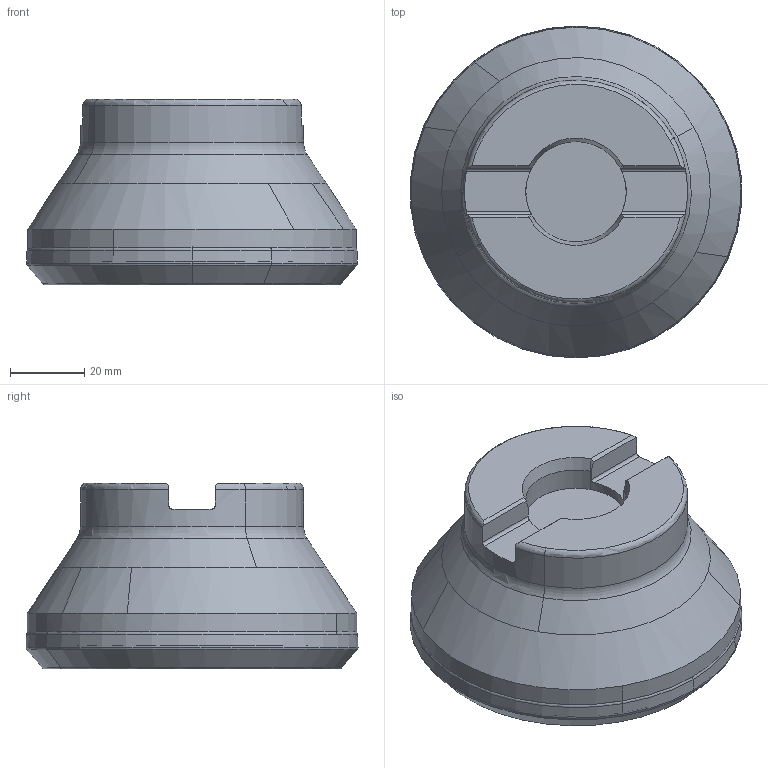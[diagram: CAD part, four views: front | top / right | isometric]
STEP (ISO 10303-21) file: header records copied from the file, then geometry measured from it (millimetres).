
FILE_DESCRIPTION(('CATIA V5 STEP','CAx-IF Rec.Pracs.--- Model Styling and Organization---1.2---2011-12-15'),'2;1');
FILE_NAME('I:\isr\design\admin8\users\weaam_s\789.stp','2015-01-27T10:27:35+00:00',('none'),('none'),'CATIA Version 5 Release 21 SP 5 (IN-10)','CATIA V5 STEP AP214','none');
FILE_SCHEMA(('AUTOMOTIVE_DESIGN { 1 0 10303 214 1 1 1 1 }'));
Length unit declared in the file: millimetre
Products named in the file (1): IQ845 FSY D080-08-27-R07
Bounding box: 89 x 89.28 x 50 mm (x, y, z)
Volume: 216219.8 mm3; surface area: 32694.6 mm2
Topology: 2 solids, 2 shells, 129 faces, 335 edges, 210 vertices
Faces by surface type: revolution 90, plane 15, cylinder 10, cone 8, torus 6
Entity records: 5185 total; most frequent: CARTESIAN_POINT 2287, ORIENTED_EDGE 638, DIRECTION 344, EDGE_CURVE 319, B_SPLINE_CURVE_WITH_KNOTS 231, VERTEX_POINT 193, AXIS2_PLACEMENT_3D 189, CIRCLE 158
